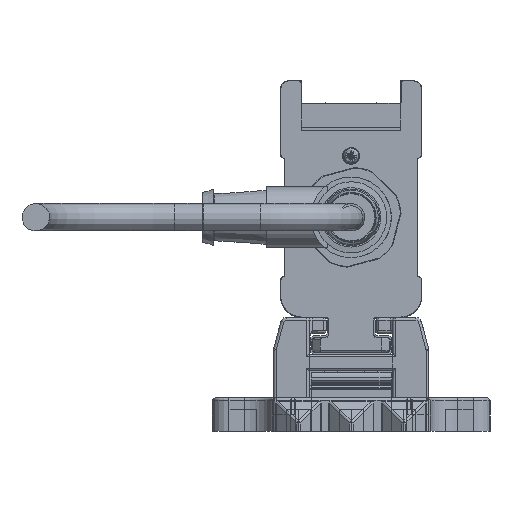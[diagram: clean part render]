
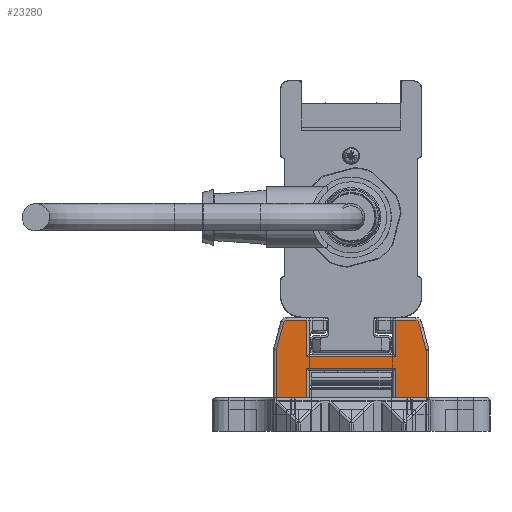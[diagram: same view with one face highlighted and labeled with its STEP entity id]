
A CAD part, left-side view. The second image highlights one B-rep face of the part: STEP entity #23280.
In plain terms, the highlighted planar face has unit normal (-1, 0, 0).
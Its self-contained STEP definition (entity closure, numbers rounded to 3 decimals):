
#23280=ADVANCED_FACE('', (#23290), #23300, .T.);
#141290=AXIS2_PLACEMENT_3D('Ax2Pl3d', #141300, #141310, #141320);
#141530=AXIS2_PLACEMENT_3D('Ax2Pl3d', #141540, #141550, #141560);
#146410=AXIS2_PLACEMENT_3D('Ax2Pl3d', #146420, #146430, #146440);
#151490=AXIS2_PLACEMENT_3D('Ax2Pl3d', #151500, #151510, #151520);
#161170=AXIS2_PLACEMENT_3D('Ax2Pl3d', #161180, #161190, #161200);
#583560=CARTESIAN_POINT('', (-747.669,-3446.345,
331.37));
#141300=CARTESIAN_POINT('HicPkt', (-747.669,-3445.379,
331.111));
#583570=CARTESIAN_POINT('', (-747.669,-3446.379,
331.111));
#583580=CARTESIAN_POINT('', (-747.669,-3445.037,
336.255));
#583600=CARTESIAN_POINT('', (-747.669,-3445.037,
336.255));
#583630=CARTESIAN_POINT('', (-747.669,-3444.554,
336.625));
#141540=CARTESIAN_POINT('HicPkt', (-747.669,-3444.554,
336.125));
#583850=CARTESIAN_POINT('', (-747.669,-3446.379,
322.625));
#583860=CARTESIAN_POINT('', (-747.669,-3440.881,
322.625));
#583870=CARTESIAN_POINT('', (-747.669,-3440.881,
322.625));
#583950=CARTESIAN_POINT('', (-747.669,-3424.881,
322.625));
#583960=CARTESIAN_POINT('', (-747.669,-3419.383,
322.625));
#583970=CARTESIAN_POINT('', (-747.669,-3419.383,
322.625));
#146420=CARTESIAN_POINT('HicPkt', (-747.669,-3421.209,
336.125));
#586440=CARTESIAN_POINT('', (-747.669,-3420.726,
336.255));
#586450=CARTESIAN_POINT('', (-747.669,-3421.209,
336.625));
#586460=CARTESIAN_POINT('', (-747.669,-3440.881,330.025)
);
#586470=CARTESIAN_POINT('', (-747.669,-3424.881,
330.025));
#586480=CARTESIAN_POINT('', (-747.669,-3440.881,330.025)
);
#586640=CARTESIAN_POINT('', (-747.669,-3440.881,
328.005));
#586650=CARTESIAN_POINT('', (-747.669,-3424.881,
328.005));
#586660=CARTESIAN_POINT('', (-747.669,-3424.881,
328.005));
#586670=CARTESIAN_POINT('', (-747.669,-3440.881,
328.005));
#586690=CARTESIAN_POINT('', (-747.669,-3424.881,
322.625));
#586700=CARTESIAN_POINT('', (-747.669,-3424.881,
330.025));
#586710=CARTESIAN_POINT('', (-747.669,-3424.881,336.625)
);
#587560=CARTESIAN_POINT('', (-747.669,-3424.881,336.625)
);
#587570=CARTESIAN_POINT('', (-747.669,-3420.726,
336.255));
#587580=CARTESIAN_POINT('', (-747.669,-3419.417,
331.37));
#587770=CARTESIAN_POINT('', (-747.669,-3419.383,331.111)
);
#587780=CARTESIAN_POINT('', (-747.669,-3419.383,331.111)
);
#151500=CARTESIAN_POINT('HicPkt', (-747.669,-3420.383,
331.111));
#588590=CARTESIAN_POINT('', (-747.669,-3446.379,
331.111));
#161180=CARTESIAN_POINT('HicPkt', (-747.669,-3444.554,
336.625));
#590390=CARTESIAN_POINT('', (-747.669,-3440.881,
336.625));
#590400=CARTESIAN_POINT('', (-747.669,-3440.881,
336.625));
#590410=CARTESIAN_POINT('', (-747.669,-3440.881,
336.625));
#675070=CIRCLE('Circle', #141290, 1.);
#675110=CIRCLE('Circle', #141530, 0.5);
#675690=CIRCLE('Circle', #146410, 0.5);
#676220=CIRCLE('Circle', #151490, 1.);
#141310=DIRECTION('Axis', (-1.,0.,
0.));
#141320=DIRECTION('RefDirection', (0.,
0.,-1.));
#942570=DIRECTION('', (0.,0.259,
0.966));
#141550=DIRECTION('Axis', (-1.,0.,
0.));
#141560=DIRECTION('RefDirection', (0.,
0.,-1.));
#942680=DIRECTION('', (0.,1.,0.));
#942720=DIRECTION('', (0.,1.,0.));
#146430=DIRECTION('Axis', (1.,0.,
0.));
#146440=DIRECTION('RefDirection', (0.,
0.,-1.));
#943910=DIRECTION('', (0.,-1.,0.));
#944010=DIRECTION('', (0.,1.,0.));
#944020=DIRECTION('', (0.,0.,1.));
#944040=DIRECTION('', (0.,0.,-1.));
#944050=DIRECTION('', (0.,0.,-1.));
#944480=DIRECTION('', (0.,-1.,0.));
#944490=DIRECTION('', (0.,-0.259,0.966));
#944580=DIRECTION('', (0.,0.,1.));
#151510=DIRECTION('Axis', (1.,0.,
0.));
#151520=DIRECTION('RefDirection', (0.,
0.,-1.));
#944950=DIRECTION('', (0.,0.,1.));
#161190=DIRECTION('Axis', (-1.,0.,
0.));
#161200=DIRECTION('RefDirection', (0.,
0.,-1.));
#945790=DIRECTION('', (0.,1.,0.));
#945800=DIRECTION('', (0.,0.,1.));
#1009400=EDGE_CURVE('', #1009410, #1009390, #675070, .T.);
#1009460=EDGE_CURVE('', #1009390, #1009440, #1009470, .T.);
#1009530=EDGE_CURVE('', #1009440, #1009520, #675110, .T.);
#1009980=EDGE_CURVE('', #1009970, #1009990, #1010000, .T.);
#1010140=EDGE_CURVE('', #1010130, #1010150, #1010160, .T.);
#1014500=EDGE_CURVE('', #1014510, #1014520, #675690, .T.);
#1014550=EDGE_CURVE('', #1014560, #1014570, #1014580, .T.);
#1014920=EDGE_CURVE('', #1014900, #1014930, #1014940, .T.);
#1014970=EDGE_CURVE('', #1009990, #1014900, #1014980, .T.);
#1015010=EDGE_CURVE('', #1014930, #1010130, #1015020, .T.);
#1015030=EDGE_CURVE('', #1015040, #1014560, #1015050, .T.);
#1016870=EDGE_CURVE('', #1014520, #1015040, #1016880, .T.);
#1016940=EDGE_CURVE('', #1016950, #1014510, #1016960, .T.);
#1017380=EDGE_CURVE('', #1010150, #1017390, #1017400, .T.);
#1017420=EDGE_CURVE('', #1017390, #1016950, #676220, .T.);
#1019130=EDGE_CURVE('', #1009970, #1009410, #1019140, .T.);
#1022940=EDGE_CURVE('', #1009520, #1022950, #1022960, .T.);
#1022970=EDGE_CURVE('', #1014570, #1022950, #1022980, .T.);
#1216860=EDGE_LOOP('Edge_loop', (#1216870,#1216880,#1216890,#1216900,
#1216910,#1216920,#1216930,#1216940,#1216950,#1216960,#1216970,
#1216980,#1216990,#1217000,#1217010,#1217020,#1217030,#1217040));
#23290=FACE_OUTER_BOUND('Face_outer_bound', #1216860, .T.);
#1009470=LINE('Line', #583600, #1391440);
#1010000=LINE('Line', #583860, #1391550);
#1010160=LINE('Line', #583960, #1391590);
#1014580=LINE('Line', #586460, #1392780);
#1014940=LINE('Line', #586650, #1392880);
#1014980=LINE('Line', #586670, #1392890);
#1015020=LINE('Line', #586690, #1392910);
#1015050=LINE('Line', #586700, #1392920);
#1016880=LINE('Line', #587560, #1393350);
#1016960=LINE('Line', #587570, #1393360);
#1017400=LINE('Line', #587770, #1393450);
#1019140=LINE('Line', #588590, #1393820);
#1022960=LINE('Line', #590390, #1394660);
#1022980=LINE('Line', #590410, #1394670);
#1216870=ORIENTED_EDGE('', *, *, #1022940, .T.);
#1216880=ORIENTED_EDGE('', *, *, #1022970, .F.);
#1216890=ORIENTED_EDGE('', *, *, #1014550, .F.);
#1216900=ORIENTED_EDGE('', *, *, #1015030, .F.);
#1216910=ORIENTED_EDGE('', *, *, #1016870, .F.);
#1216920=ORIENTED_EDGE('', *, *, #1014500, .F.);
#1216930=ORIENTED_EDGE('', *, *, #1016940, .F.);
#1216940=ORIENTED_EDGE('', *, *, #1017420, .F.);
#1216950=ORIENTED_EDGE('', *, *, #1017380, .F.);
#1216960=ORIENTED_EDGE('', *, *, #1010140, .F.);
#1216970=ORIENTED_EDGE('', *, *, #1015010, .F.);
#1216980=ORIENTED_EDGE('', *, *, #1014920, .F.);
#1216990=ORIENTED_EDGE('', *, *, #1014970, .F.);
#1217000=ORIENTED_EDGE('', *, *, #1009980, .F.);
#1217010=ORIENTED_EDGE('', *, *, #1019130, .T.);
#1217020=ORIENTED_EDGE('', *, *, #1009400, .T.);
#1217030=ORIENTED_EDGE('', *, *, #1009460, .T.);
#1217040=ORIENTED_EDGE('', *, *, #1009530, .T.);
#23300=PLANE('Plane', #161170);
#1391440=VECTOR('', #942570, 5.057);
#1391550=VECTOR('', #942680, 5.498);
#1391590=VECTOR('', #942720, 5.498);
#1392780=VECTOR('', #943910, 16.);
#1392880=VECTOR('', #944010, 16.);
#1392890=VECTOR('', #944020, 5.38);
#1392910=VECTOR('', #944040, 5.38);
#1392920=VECTOR('', #944050, 6.6);
#1393350=VECTOR('', #944480, 3.672);
#1393360=VECTOR('', #944490, 5.057);
#1393450=VECTOR('', #944580, 8.486);
#1393820=VECTOR('', #944950, 8.486);
#1394660=VECTOR('', #945790, 3.672);
#1394670=VECTOR('', #945800, 6.6);
#1009390=VERTEX_POINT('', #583560);
#1009410=VERTEX_POINT('', #583570);
#1009440=VERTEX_POINT('', #583580);
#1009520=VERTEX_POINT('', #583630);
#1009970=VERTEX_POINT('', #583850);
#1009990=VERTEX_POINT('', #583870);
#1010130=VERTEX_POINT('', #583950);
#1010150=VERTEX_POINT('', #583970);
#1014510=VERTEX_POINT('', #586440);
#1014520=VERTEX_POINT('', #586450);
#1014560=VERTEX_POINT('', #586470);
#1014570=VERTEX_POINT('', #586480);
#1014900=VERTEX_POINT('', #586640);
#1014930=VERTEX_POINT('', #586660);
#1015040=VERTEX_POINT('', #586710);
#1016950=VERTEX_POINT('', #587580);
#1017390=VERTEX_POINT('', #587780);
#1022950=VERTEX_POINT('', #590400);
